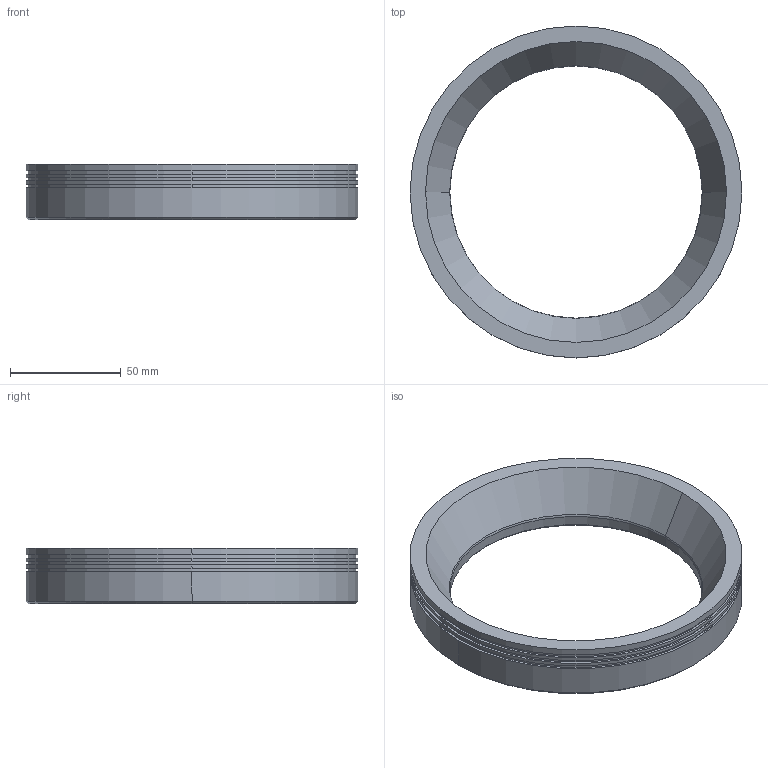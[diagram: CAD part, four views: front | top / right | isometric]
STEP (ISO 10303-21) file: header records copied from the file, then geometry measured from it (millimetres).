
FILE_DESCRIPTION((''),'2;1');
FILE_NAME('DRL7030','2020-03-28T',('ASUS'),(''),'PRO/ENGINEER BY PARAMETRIC TECHNOLOGY CORPORATION, 2008380','PRO/ENGINEER BY PARAMETRIC TECHNOLOGY CORPORATION, 2008380','');
FILE_SCHEMA(('CONFIG_CONTROL_DESIGN'));
Length unit declared in the file: millimetre
Products named in the file (1): DRL7030
Bounding box: 150 x 150 x 25 mm (x, y, z)
Volume: 143974.4 mm3; surface area: 35889.3 mm2
Topology: 1 solids, 5 shells, 68 faces, 152 edges, 92 vertices
Faces by surface type: cylinder 32, cone 22, plane 12, torus 2
Entity records: 1901 total; most frequent: DIRECTION 372, CARTESIAN_POINT 305, ORIENTED_EDGE 272, AXIS2_PLACEMENT_3D 159, EDGE_CURVE 144, VERTEX_POINT 92, CIRCLE 90, EDGE_LOOP 84
